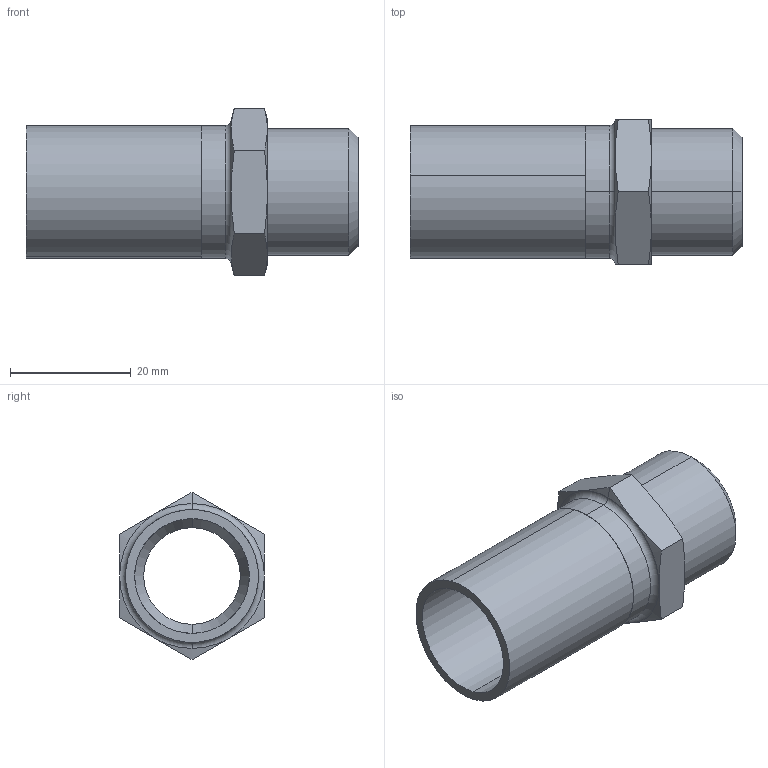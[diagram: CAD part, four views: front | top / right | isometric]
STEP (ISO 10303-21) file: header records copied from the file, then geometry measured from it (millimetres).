
FILE_DESCRIPTION (( 'STEP AP203' ), '1' );
FILE_NAME ('GDA6365.STEP', '2019-07-03T06:08:58', ( '' ), ( '' ), 'SwSTEP 2.0', 'SolidWorks 2015', '' );
FILE_SCHEMA (( 'CONFIG_CONTROL_DESIGN' ));
Length unit declared in the file: millimetre
Products named in the file (3): 眻奪22; OD22｡ﾁ0.5; GDA6365
Assembly tree (2 placements, depth 2):
  GDA6365
    OD22｡ﾁ0.5
    眻奪22
Bounding box: 55 x 24 x 27.71 mm (x, y, z)
Volume: 7242 mm3; surface area: 7529.9 mm2
Topology: 2 solids, 2 shells, 43 faces, 91 edges, 53 vertices
Faces by surface type: cone 18, cylinder 12, plane 11, torus 2
Entity records: 1529 total; most frequent: CARTESIAN_POINT 312, DIRECTION 206, ORIENTED_EDGE 182, EDGE_CURVE 91, AXIS2_PLACEMENT_3D 91, VERTEX_POINT 53, EDGE_LOOP 48, ADVANCED_FACE 43
